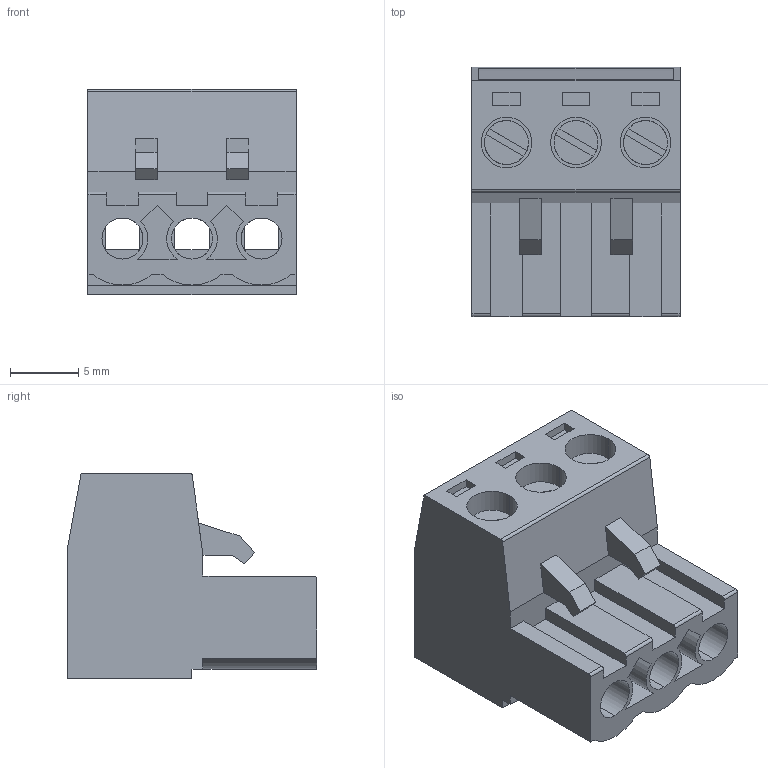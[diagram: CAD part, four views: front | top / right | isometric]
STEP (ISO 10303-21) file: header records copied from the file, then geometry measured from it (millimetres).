
FILE_DESCRIPTION (( 'STEP AP214' ), '1' );
FILE_NAME ('僆儉儘儞XW4B-03C1-H1.STEP', '2024-06-20T05:01:35', ( '' ), ( '' ), 'SwSTEP 2.0', 'SolidWorks 2023', '' );
FILE_SCHEMA (( 'AUTOMOTIVE_DESIGN' ));
Length unit declared in the file: millimetre
Products named in the file (1): オムロンXW4B-03C1-H1
Bounding box: 15.2 x 18.2 x 15 mm (x, y, z)
Volume: 2323.1 mm3; surface area: 2437.7 mm2
Topology: 4 solids, 4 shells, 155 faces, 398 edges, 260 vertices
Faces by surface type: plane 122, cylinder 33
Entity records: 4730 total; most frequent: CARTESIAN_POINT 814, ORIENTED_EDGE 796, DIRECTION 794, EDGE_CURVE 398, LINE 314, VECTOR 314, VERTEX_POINT 260, AXIS2_PLACEMENT_3D 240
